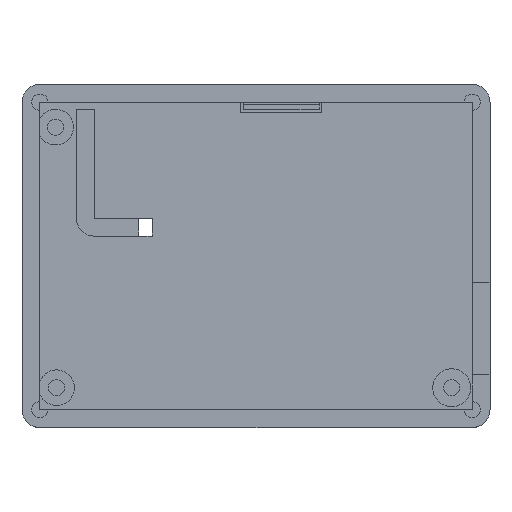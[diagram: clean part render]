
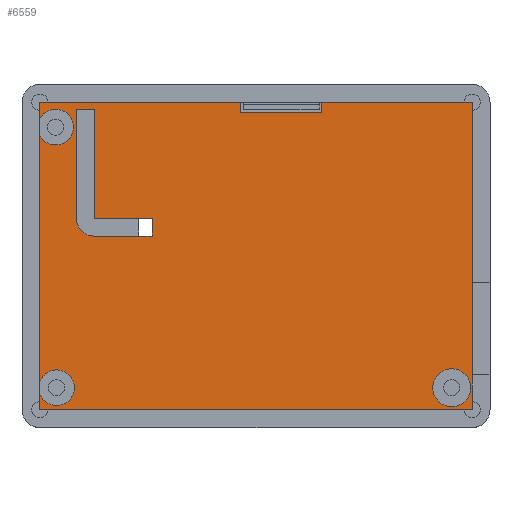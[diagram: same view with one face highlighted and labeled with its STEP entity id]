
A CAD part, top view. The second image highlights one B-rep face of the part: STEP entity #6559.
In plain terms, the highlighted planar face has unit normal (0, 0, 1).
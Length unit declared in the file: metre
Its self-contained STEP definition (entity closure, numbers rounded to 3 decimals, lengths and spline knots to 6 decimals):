
#345=CIRCLE('',#6961,0.00425);
#346=CIRCLE('',#6962,0.004);
#347=CIRCLE('',#6963,0.004);
#348=CIRCLE('',#6964,0.004);
#691=ORIENTED_EDGE('',*,*,#2661,.F.);
#692=ORIENTED_EDGE('',*,*,#2662,.F.);
#693=ORIENTED_EDGE('',*,*,#2663,.T.);
#694=ORIENTED_EDGE('',*,*,#2664,.T.);
#695=ORIENTED_EDGE('',*,*,#2665,.T.);
#696=ORIENTED_EDGE('',*,*,#2666,.F.);
#697=ORIENTED_EDGE('',*,*,#2667,.T.);
#698=ORIENTED_EDGE('',*,*,#2668,.F.);
#699=ORIENTED_EDGE('',*,*,#2669,.F.);
#700=ORIENTED_EDGE('',*,*,#2670,.T.);
#701=ORIENTED_EDGE('',*,*,#2414,.F.);
#702=ORIENTED_EDGE('',*,*,#2443,.T.);
#703=ORIENTED_EDGE('',*,*,#2671,.F.);
#704=ORIENTED_EDGE('',*,*,#2439,.T.);
#705=ORIENTED_EDGE('',*,*,#2672,.F.);
#706=ORIENTED_EDGE('',*,*,#2435,.T.);
#707=ORIENTED_EDGE('',*,*,#2450,.T.);
#708=ORIENTED_EDGE('',*,*,#2455,.F.);
#709=ORIENTED_EDGE('',*,*,#2422,.F.);
#710=ORIENTED_EDGE('',*,*,#2673,.F.);
#2414=EDGE_CURVE('',#3402,#3403,#4063,.T.);
#2422=EDGE_CURVE('',#3410,#3411,#4071,.T.);
#2435=EDGE_CURVE('',#3424,#3423,#4082,.T.);
#2439=EDGE_CURVE('',#3428,#3427,#4086,.T.);
#2443=EDGE_CURVE('',#3402,#3431,#4090,.T.);
#2450=EDGE_CURVE('',#3423,#3437,#4097,.T.);
#2455=EDGE_CURVE('',#3411,#3437,#4102,.T.);
#2661=EDGE_CURVE('',#3643,#3643,#345,.T.);
#2662=EDGE_CURVE('',#3644,#3645,#4237,.T.);
#2663=EDGE_CURVE('',#3644,#3646,#4238,.T.);
#2664=EDGE_CURVE('',#3646,#3647,#4239,.T.);
#2665=EDGE_CURVE('',#3647,#3648,#4240,.T.);
#2666=EDGE_CURVE('',#3649,#3648,#346,.T.);
#2667=EDGE_CURVE('',#3649,#3650,#4241,.T.);
#2668=EDGE_CURVE('',#3645,#3650,#4242,.T.);
#2669=EDGE_CURVE('',#3651,#3652,#4243,.T.);
#2670=EDGE_CURVE('',#3651,#3403,#4244,.T.);
#2671=EDGE_CURVE('',#3428,#3431,#347,.T.);
#2672=EDGE_CURVE('',#3424,#3427,#348,.T.);
#2673=EDGE_CURVE('',#3652,#3410,#4245,.T.);
#3402=VERTEX_POINT('',#8822);
#3403=VERTEX_POINT('',#8824);
#3410=VERTEX_POINT('',#8838);
#3411=VERTEX_POINT('',#8840);
#3423=VERTEX_POINT('',#8865);
#3424=VERTEX_POINT('',#8867);
#3427=VERTEX_POINT('',#8873);
#3428=VERTEX_POINT('',#8875);
#3431=VERTEX_POINT('',#8881);
#3437=VERTEX_POINT('',#8895);
#3643=VERTEX_POINT('',#9428);
#3644=VERTEX_POINT('',#9430);
#3645=VERTEX_POINT('',#9431);
#3646=VERTEX_POINT('',#9433);
#3647=VERTEX_POINT('',#9435);
#3648=VERTEX_POINT('',#9437);
#3649=VERTEX_POINT('',#9439);
#3650=VERTEX_POINT('',#9441);
#3651=VERTEX_POINT('',#9444);
#3652=VERTEX_POINT('',#9445);
#4063=LINE('',#8823,#4774);
#4071=LINE('',#8839,#4782);
#4082=LINE('',#8866,#4793);
#4086=LINE('',#8874,#4797);
#4090=LINE('',#8882,#4801);
#4097=LINE('',#8896,#4808);
#4102=LINE('',#8905,#4813);
#4237=LINE('',#9429,#4948);
#4238=LINE('',#9432,#4949);
#4239=LINE('',#9434,#4950);
#4240=LINE('',#9436,#4951);
#4241=LINE('',#9440,#4952);
#4242=LINE('',#9442,#4953);
#4243=LINE('',#9443,#4954);
#4244=LINE('',#9446,#4955);
#4245=LINE('',#9449,#4956);
#4774=VECTOR('',#7333,1.);
#4782=VECTOR('',#7341,1.);
#4793=VECTOR('',#7358,1.);
#4797=VECTOR('',#7362,1.);
#4801=VECTOR('',#7366,1.);
#4808=VECTOR('',#7375,1.);
#4813=VECTOR('',#7382,1.);
#4948=VECTOR('',#7559,1.);
#4949=VECTOR('',#7560,1.);
#4950=VECTOR('',#7561,1.);
#4951=VECTOR('',#7562,1.);
#4952=VECTOR('',#7565,1.);
#4953=VECTOR('',#7566,1.);
#4954=VECTOR('',#7567,1.);
#4955=VECTOR('',#7568,1.);
#4956=VECTOR('',#7573,1.);
#5501=EDGE_LOOP('',(#691));
#5502=EDGE_LOOP('',(#692,#693,#694,#695,#696,#697,#698));
#5503=EDGE_LOOP('',(#699,#700,#701,#702,#703,#704,#705,#706,#707,#708,#709,#710));
#5924=FACE_BOUND('',#5501,.T.);
#5925=FACE_BOUND('',#5502,.T.);
#5926=FACE_BOUND('',#5503,.T.);
#6328=PLANE('',#6960);
#6559=ADVANCED_FACE('',(#5924,#5925,#5926),#6328,.T.);
#6960=AXIS2_PLACEMENT_3D('',#9426,#7555,#7556);
#6961=AXIS2_PLACEMENT_3D('',#9427,#7557,#7558);
#6962=AXIS2_PLACEMENT_3D('',#9438,#7563,#7564);
#6963=AXIS2_PLACEMENT_3D('',#9447,#7569,#7570);
#6964=AXIS2_PLACEMENT_3D('',#9448,#7571,#7572);
#7333=DIRECTION('',(1.,0.,0.));
#7341=DIRECTION('',(1.,0.,0.));
#7358=DIRECTION('',(0.,-1.,0.));
#7362=DIRECTION('',(0.,-1.,0.));
#7366=DIRECTION('',(0.,-1.,0.));
#7375=DIRECTION('',(1.,0.,0.));
#7382=DIRECTION('',(0.,-1.,0.));
#7555=DIRECTION('',(0.,0.,1.));
#7556=DIRECTION('',(1.,0.,0.));
#7557=DIRECTION('',(0.,0.,1.));
#7558=DIRECTION('',(1.,0.,0.));
#7559=DIRECTION('',(0.,1.,0.));
#7560=DIRECTION('',(1.,0.,0.));
#7561=DIRECTION('',(0.,-1.,0.));
#7562=DIRECTION('',(-1.,0.,0.));
#7563=DIRECTION('',(0.,0.,1.));
#7564=DIRECTION('',(1.,0.,0.));
#7565=DIRECTION('',(0.,1.,0.));
#7566=DIRECTION('',(-1.,0.,0.));
#7567=DIRECTION('',(1.,0.,0.));
#7568=DIRECTION('',(0.,1.,0.));
#7569=DIRECTION('',(0.,0.,1.));
#7570=DIRECTION('',(1.,0.,0.));
#7571=DIRECTION('',(0.,0.,1.));
#7572=DIRECTION('',(1.,0.,0.));
#7573=DIRECTION('',(0.,1.,0.));
#8822=CARTESIAN_POINT('',(-0.147052,-0.00164,0.004));
#8823=CARTESIAN_POINT('',(-0.098552,-0.00164,0.004));
#8824=CARTESIAN_POINT('',(-0.101971,-0.00164,0.004));
#8838=CARTESIAN_POINT('',(-0.083776,-0.00164,0.004));
#8839=CARTESIAN_POINT('',(-0.098552,-0.00164,0.004));
#8840=CARTESIAN_POINT('',(-0.050052,-0.00164,0.004));
#8865=CARTESIAN_POINT('',(-0.147052,-0.07064,0.004));
#8866=CARTESIAN_POINT('',(-0.147052,-0.03614,0.004));
#8867=CARTESIAN_POINT('',(-0.147052,-0.067095,0.004));
#8873=CARTESIAN_POINT('',(-0.147052,-0.064276,0.004));
#8874=CARTESIAN_POINT('',(-0.147052,-0.03614,0.004));
#8875=CARTESIAN_POINT('',(-0.147052,-0.009119,0.004));
#8881=CARTESIAN_POINT('',(-0.147052,-0.005332,0.004));
#8882=CARTESIAN_POINT('',(-0.147052,-0.03614,0.004));
#8895=CARTESIAN_POINT('',(-0.050052,-0.07064,0.004));
#8896=CARTESIAN_POINT('',(-0.098552,-0.07064,0.004));
#8905=CARTESIAN_POINT('',(-0.050052,-0.03614,0.004));
#9426=CARTESIAN_POINT('',(-0.098552,-0.03614,0.004));
#9427=CARTESIAN_POINT('',(-0.054644,-0.065685,0.004));
#9428=CARTESIAN_POINT('',(-0.050394,-0.065685,0.004));
#9429=CARTESIAN_POINT('',(-0.134867,-0.03614,0.004));
#9430=CARTESIAN_POINT('',(-0.134867,-0.027669,0.004));
#9431=CARTESIAN_POINT('',(-0.134867,-0.003169,0.004));
#9432=CARTESIAN_POINT('',(-0.098552,-0.027669,0.004));
#9433=CARTESIAN_POINT('',(-0.121867,-0.027669,0.004));
#9434=CARTESIAN_POINT('',(-0.121867,-0.03614,0.004));
#9435=CARTESIAN_POINT('',(-0.121867,-0.031669,0.004));
#9436=CARTESIAN_POINT('',(-0.098552,-0.031669,0.004));
#9437=CARTESIAN_POINT('',(-0.134867,-0.031669,0.004));
#9438=CARTESIAN_POINT('',(-0.134867,-0.027669,0.004));
#9439=CARTESIAN_POINT('',(-0.138867,-0.027669,0.004));
#9440=CARTESIAN_POINT('',(-0.138867,-0.03614,0.004));
#9441=CARTESIAN_POINT('',(-0.138867,-0.003169,0.004));
#9442=CARTESIAN_POINT('',(-0.098552,-0.003169,0.004));
#9443=CARTESIAN_POINT('',(-0.084071,-0.003961,0.004));
#9444=CARTESIAN_POINT('',(-0.101971,-0.003961,0.004));
#9445=CARTESIAN_POINT('',(-0.083776,-0.003961,0.004));
#9446=CARTESIAN_POINT('',(-0.101971,-0.0028,0.004));
#9447=CARTESIAN_POINT('',(-0.143528,-0.007226,0.004));
#9448=CARTESIAN_POINT('',(-0.143308,-0.065685,0.004));
#9449=CARTESIAN_POINT('',(-0.083776,-0.0028,0.004));
